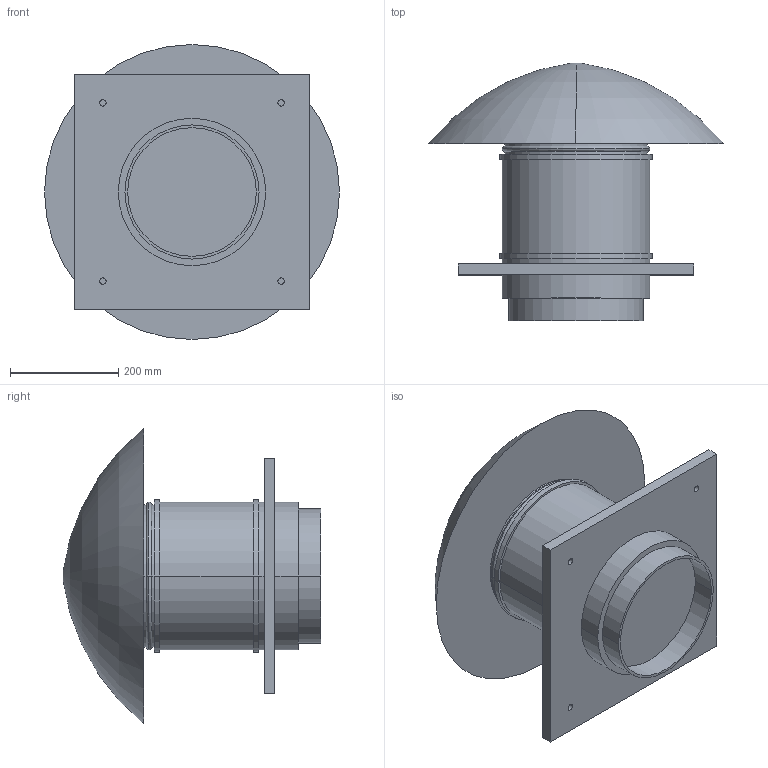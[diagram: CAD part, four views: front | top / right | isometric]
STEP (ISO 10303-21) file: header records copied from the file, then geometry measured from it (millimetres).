
FILE_DESCRIPTION(('STEP AP214'),'1');
FILE_NAME('5220003900.stp','2019-05-13T14:54:28',('TraceParts'),('TraceParts S.A.'),'Spatial InterOp 3D',' ',' ');
FILE_SCHEMA(('AUTOMOTIVE_DESIGN { 1 0 10303 214 1 1 1 1 }'));
Length unit declared in the file: millimetre
Products named in the file (1): 5220003900
Bounding box: 546 x 477 x 546 mm (x, y, z)
Volume: 36980689.4 mm3; surface area: 1149473.7 mm2
Topology: 1 solids, 1 shells, 47 faces, 102 edges, 66 vertices
Faces by surface type: cylinder 26, plane 15, torus 6
Entity records: 1343 total; most frequent: DIRECTION 262, CARTESIAN_POINT 216, ORIENTED_EDGE 204, AXIS2_PLACEMENT_3D 112, EDGE_CURVE 102, VERTEX_POINT 66, EDGE_LOOP 64, CIRCLE 64
